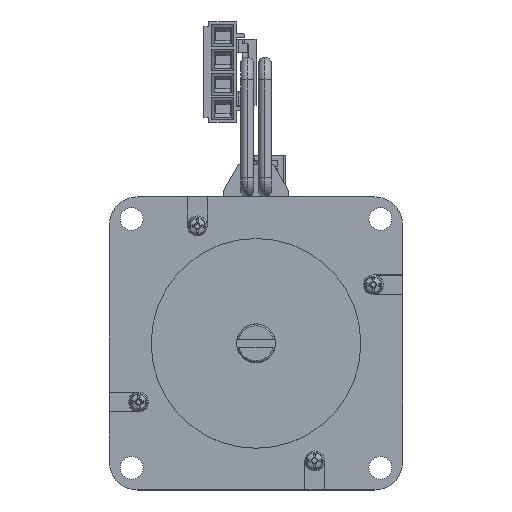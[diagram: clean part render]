
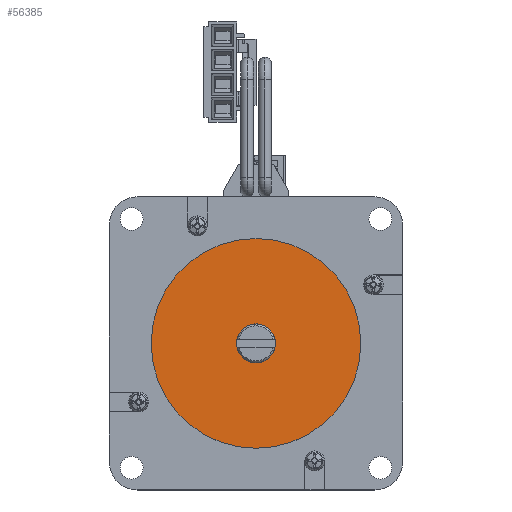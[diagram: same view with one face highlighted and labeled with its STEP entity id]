
A CAD part, top view. The second image highlights one B-rep face of the part: STEP entity #56385.
In plain terms, the highlighted planar face has unit normal (0, 0, 1).
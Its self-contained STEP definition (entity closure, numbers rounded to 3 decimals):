
#375 = VERTEX_POINT ( 'NONE', #119021 ) ;
#6985 = EDGE_CURVE ( 'NONE', #125323, #87879, #119074, .T. ) ;
#7638 = CARTESIAN_POINT ( 'NONE',  ( 40.167, 102.909, 293.244 ) ) ;
#9376 = ORIENTED_EDGE ( 'NONE', *, *, #6985, .T. ) ;
#10890 = EDGE_CURVE ( 'NONE', #375, #125959, #115931, .T. ) ;
#11635 = DIRECTION ( 'NONE',  ( 0., 0., 1. ) ) ;
#26190 = CARTESIAN_POINT ( 'NONE',  ( 40.167, 102.909, 293.244 ) ) ;
#26249 = CIRCLE ( 'NONE', #59054, 32.2 ) ;
#26619 = DIRECTION ( 'NONE',  ( 1., 0., 0. ) ) ;
#28112 = DIRECTION ( 'NONE',  ( 0., 0., 1. ) ) ;
#32806 = EDGE_LOOP ( 'NONE', ( #128589, #9376 ) ) ;
#36959 = EDGE_CURVE ( 'NONE', #125959, #375, #46023, .T. ) ;
#39557 = CARTESIAN_POINT ( 'NONE',  ( 34.167, 102.909, 293.244 ) ) ;
#46023 = CIRCLE ( 'NONE', #78803, 6. ) ;
#49598 = DIRECTION ( 'NONE',  ( -1., 0., 0. ) ) ;
#50660 = ORIENTED_EDGE ( 'NONE', *, *, #36959, .F. ) ;
#56385 = ADVANCED_FACE ( 'NONE', ( #114901, #60553 ), #57710, .F. ) ;
#57710 = PLANE ( 'NONE',  #101962 ) ;
#59054 = AXIS2_PLACEMENT_3D ( 'NONE', #82279, #105026, #26619 ) ;
#60030 = EDGE_CURVE ( 'NONE', #87879, #125323, #26249, .T. ) ;
#60553 = FACE_OUTER_BOUND ( 'NONE', #32806, .T. ) ;
#67239 = CARTESIAN_POINT ( 'NONE',  ( 40.167, 102.909, 293.244 ) ) ;
#77460 = CARTESIAN_POINT ( 'NONE',  ( 40.167, 102.909, 293.244 ) ) ;
#78803 = AXIS2_PLACEMENT_3D ( 'NONE', #67239, #11635, #101053 ) ;
#80834 = AXIS2_PLACEMENT_3D ( 'NONE', #77460, #131796, #100308 ) ;
#82279 = CARTESIAN_POINT ( 'NONE',  ( 40.167, 102.909, 293.244 ) ) ;
#82725 = ORIENTED_EDGE ( 'NONE', *, *, #10890, .F. ) ;
#87879 = VERTEX_POINT ( 'NONE', #91257 ) ;
#91257 = CARTESIAN_POINT ( 'NONE',  ( 72.367, 102.909, 293.244 ) ) ;
#97000 = DIRECTION ( 'NONE',  ( 1., 0., 0. ) ) ;
#100308 = DIRECTION ( 'NONE',  ( 1., 0., 0. ) ) ;
#101053 = DIRECTION ( 'NONE',  ( 1., 0., 0. ) ) ;
#101205 = CARTESIAN_POINT ( 'NONE',  ( 7.967, 102.909, 293.244 ) ) ;
#101962 = AXIS2_PLACEMENT_3D ( 'NONE', #26190, #138301, #49598 ) ;
#105026 = DIRECTION ( 'NONE',  ( 0., 0., 1. ) ) ;
#109155 = EDGE_LOOP ( 'NONE', ( #82725, #50660 ) ) ;
#114901 = FACE_BOUND ( 'NONE', #109155, .T. ) ;
#115931 = CIRCLE ( 'NONE', #80834, 6. ) ;
#119021 = CARTESIAN_POINT ( 'NONE',  ( 46.167, 102.909, 293.244 ) ) ;
#119074 = CIRCLE ( 'NONE', #142577, 32.2 ) ;
#125323 = VERTEX_POINT ( 'NONE', #101205 ) ;
#125959 = VERTEX_POINT ( 'NONE', #39557 ) ;
#128589 = ORIENTED_EDGE ( 'NONE', *, *, #60030, .T. ) ;
#131796 = DIRECTION ( 'NONE',  ( 0., 0., 1. ) ) ;
#138301 = DIRECTION ( 'NONE',  ( 0., 0., -1. ) ) ;
#142577 = AXIS2_PLACEMENT_3D ( 'NONE', #7638, #28112, #97000 ) ;
